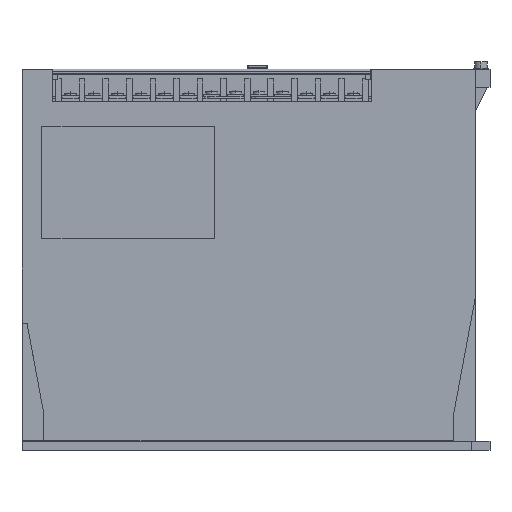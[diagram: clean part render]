
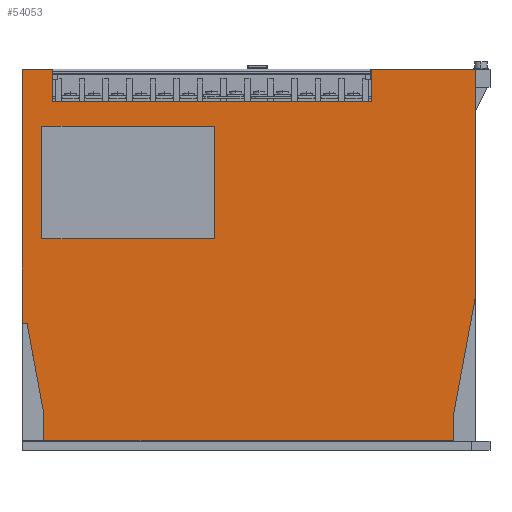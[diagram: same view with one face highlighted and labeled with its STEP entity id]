
A CAD part, left-side view. The second image highlights one B-rep face of the part: STEP entity #54053.
In plain terms, the highlighted planar face has unit normal (-1, 0, 0).
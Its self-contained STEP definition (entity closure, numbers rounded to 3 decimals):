
#1687=DIRECTION('',(0.,0.,-1.));
#1688=VECTOR('',#1687,14.9);
#1689=CARTESIAN_POINT('',(0.,238.,20.));
#1690=LINE('',#1689,#1688);
#12653=DIRECTION('',(0.,0.,1.));
#12654=VECTOR('',#12653,14.9);
#12655=CARTESIAN_POINT('',(0.,12.,5.1));
#12656=LINE('',#12655,#12654);
#12697=DIRECTION('',(0.,1.,0.));
#12698=VECTOR('',#12697,226.);
#12699=CARTESIAN_POINT('',(0.,12.,5.1));
#12700=LINE('',#12699,#12698);
#12701=DIRECTION('',(0.,0.182,0.983));
#12702=VECTOR('',#12701,50.746);
#12703=CARTESIAN_POINT('',(0.,238.,20.));
#12704=LINE('',#12703,#12702);
#12705=DIRECTION('',(0.,-0.999,-0.035));
#12706=VECTOR('',#12705,2.789);
#12707=CARTESIAN_POINT('',(0.,250.,70.));
#12708=LINE('',#12707,#12706);
#12709=DIRECTION('',(0.,0.,1.));
#12710=VECTOR('',#12709,140.);
#12711=CARTESIAN_POINT('',(0.,250.,70.));
#12712=LINE('',#12711,#12710);
#12713=DIRECTION('',(0.,-1.,0.));
#12714=VECTOR('',#12713,16.7);
#12715=CARTESIAN_POINT('',(0.,250.,210.));
#12716=LINE('',#12715,#12714);
#12717=DIRECTION('',(0.,0.,-1.));
#12718=VECTOR('',#12717,17.843);
#12719=CARTESIAN_POINT('',(0.,233.3,210.));
#12720=LINE('',#12719,#12718);
#12721=DIRECTION('',(0.,0.,-1.));
#12722=VECTOR('',#12721,17.843);
#12723=CARTESIAN_POINT('',(0.,57.4,210.));
#12724=LINE('',#12723,#12722);
#12725=DIRECTION('',(0.,-1.,0.));
#12726=VECTOR('',#12725,57.4);
#12727=CARTESIAN_POINT('',(0.,57.4,210.));
#12728=LINE('',#12727,#12726);
#12729=DIRECTION('',(0.,0.,-1.));
#12730=VECTOR('',#12729,125.);
#12731=CARTESIAN_POINT('',(0.,0.,210.));
#12732=LINE('',#12731,#12730);
#12733=DIRECTION('',(0.,0.182,-0.983));
#12734=VECTOR('',#12733,66.098);
#12735=CARTESIAN_POINT('',(0.,0.,85.));
#12736=LINE('',#12735,#12734);
#12737=DIRECTION('',(0.,0.,1.));
#12738=VECTOR('',#12737,62.);
#12739=CARTESIAN_POINT('',(0.,144.,116.5));
#12740=LINE('',#12739,#12738);
#12741=DIRECTION('',(0.,1.,0.));
#12742=VECTOR('',#12741,95.);
#12743=CARTESIAN_POINT('',(0.,144.,178.5));
#12744=LINE('',#12743,#12742);
#12745=DIRECTION('',(0.,0.,-1.));
#12746=VECTOR('',#12745,62.);
#12747=CARTESIAN_POINT('',(0.,239.,178.5));
#12748=LINE('',#12747,#12746);
#13217=DIRECTION('',(0.,1.,0.));
#13218=VECTOR('',#13217,175.9);
#13219=CARTESIAN_POINT('',(0.,57.4,192.157));
#13220=LINE('',#13219,#13218);
#19551=DIRECTION('',(0.,1.,0.));
#19552=VECTOR('',#19551,95.);
#19553=CARTESIAN_POINT('',(0.,144.,116.5));
#19554=LINE('',#19553,#19552);
#24240=CARTESIAN_POINT('',(0.,144.,116.5));
#24241=CARTESIAN_POINT('',(0.,144.,178.5));
#24242=VERTEX_POINT('',#24240);
#24243=VERTEX_POINT('',#24241);
#24244=CARTESIAN_POINT('',(0.,239.,178.5));
#24245=VERTEX_POINT('',#24244);
#24246=CARTESIAN_POINT('',(0.,239.,116.5));
#24247=VERTEX_POINT('',#24246);
#24249=CARTESIAN_POINT('',(0.,233.3,210.));
#24251=VERTEX_POINT('',#24249);
#24254=CARTESIAN_POINT('',(0.,250.,210.));
#24255=VERTEX_POINT('',#24254);
#24272=CARTESIAN_POINT('',(0.,57.4,210.));
#24273=VERTEX_POINT('',#24272);
#24274=CARTESIAN_POINT('',(0.,0.,85.));
#24275=CARTESIAN_POINT('',(0.,12.,20.));
#24276=VERTEX_POINT('',#24274);
#24277=VERTEX_POINT('',#24275);
#24278=CARTESIAN_POINT('',(0.,0.,210.));
#24279=VERTEX_POINT('',#24278);
#24336=CARTESIAN_POINT('',(0.,238.,20.));
#24337=VERTEX_POINT('',#24336);
#24342=CARTESIAN_POINT('',(0.,250.,70.));
#24343=CARTESIAN_POINT('',(0.,247.213,69.903));
#24344=VERTEX_POINT('',#24342);
#24345=VERTEX_POINT('',#24343);
#24464=CARTESIAN_POINT('',(0.,233.3,192.157));
#24465=VERTEX_POINT('',#24464);
#24466=CARTESIAN_POINT('',(0.,57.4,192.157));
#24467=VERTEX_POINT('',#24466);
#29068=CARTESIAN_POINT('',(0.,12.,5.1));
#29069=CARTESIAN_POINT('',(0.,238.,5.1));
#29070=VERTEX_POINT('',#29068);
#29071=VERTEX_POINT('',#29069);
#54017=CARTESIAN_POINT('',(0.,250.,0.));
#54018=DIRECTION('',(-1.,0.,0.));
#54019=DIRECTION('',(0.,-1.,0.));
#54020=AXIS2_PLACEMENT_3D('',#54017,#54018,#54019);
#54021=PLANE('',#54020);
#54022=ORIENTED_EDGE('',*,*,#31921,.T.);
#54023=ORIENTED_EDGE('',*,*,#31897,.F.);
#54025=ORIENTED_EDGE('',*,*,#54024,.T.);
#54027=ORIENTED_EDGE('',*,*,#54026,.F.);
#54028=ORIENTED_EDGE('',*,*,#31845,.T.);
#54029=ORIENTED_EDGE('',*,*,#31765,.T.);
#54031=ORIENTED_EDGE('',*,*,#54030,.T.);
#54033=ORIENTED_EDGE('',*,*,#54032,.F.);
#54035=ORIENTED_EDGE('',*,*,#54034,.F.);
#54036=ORIENTED_EDGE('',*,*,#31757,.T.);
#54037=ORIENTED_EDGE('',*,*,#31645,.T.);
#54039=ORIENTED_EDGE('',*,*,#54038,.T.);
#54040=ORIENTED_EDGE('',*,*,#53982,.F.);
#54041=EDGE_LOOP('',(#54022,#54023,#54025,#54027,#54028,#54029,#54031,#54033,
#54035,#54036,#54037,#54039,#54040));
#54042=FACE_OUTER_BOUND('',#54041,.F.);
#54044=ORIENTED_EDGE('',*,*,#54043,.F.);
#54046=ORIENTED_EDGE('',*,*,#54045,.T.);
#54048=ORIENTED_EDGE('',*,*,#54047,.T.);
#54050=ORIENTED_EDGE('',*,*,#54049,.T.);
#54051=EDGE_LOOP('',(#54044,#54046,#54048,#54050));
#54052=FACE_BOUND('',#54051,.F.);
#31645=EDGE_CURVE('',#24279,#24276,#12732,.T.);
#31757=EDGE_CURVE('',#24273,#24279,#12728,.T.);
#31765=EDGE_CURVE('',#24255,#24251,#12716,.T.);
#31845=EDGE_CURVE('',#24344,#24255,#12712,.T.);
#31897=EDGE_CURVE('',#24337,#29071,#1690,.T.);
#31921=EDGE_CURVE('',#29070,#29071,#12700,.T.);
#53982=EDGE_CURVE('',#29070,#24277,#12656,.T.);
#54024=EDGE_CURVE('',#24337,#24345,#12704,.T.);
#54026=EDGE_CURVE('',#24344,#24345,#12708,.T.);
#54030=EDGE_CURVE('',#24251,#24465,#12720,.T.);
#54032=EDGE_CURVE('',#24467,#24465,#13220,.T.);
#54034=EDGE_CURVE('',#24273,#24467,#12724,.T.);
#54038=EDGE_CURVE('',#24276,#24277,#12736,.T.);
#54043=EDGE_CURVE('',#24242,#24247,#19554,.T.);
#54045=EDGE_CURVE('',#24242,#24243,#12740,.T.);
#54047=EDGE_CURVE('',#24243,#24245,#12744,.T.);
#54049=EDGE_CURVE('',#24245,#24247,#12748,.T.);
#54053=ADVANCED_FACE('',(#54042,#54052),#54021,.T.);
